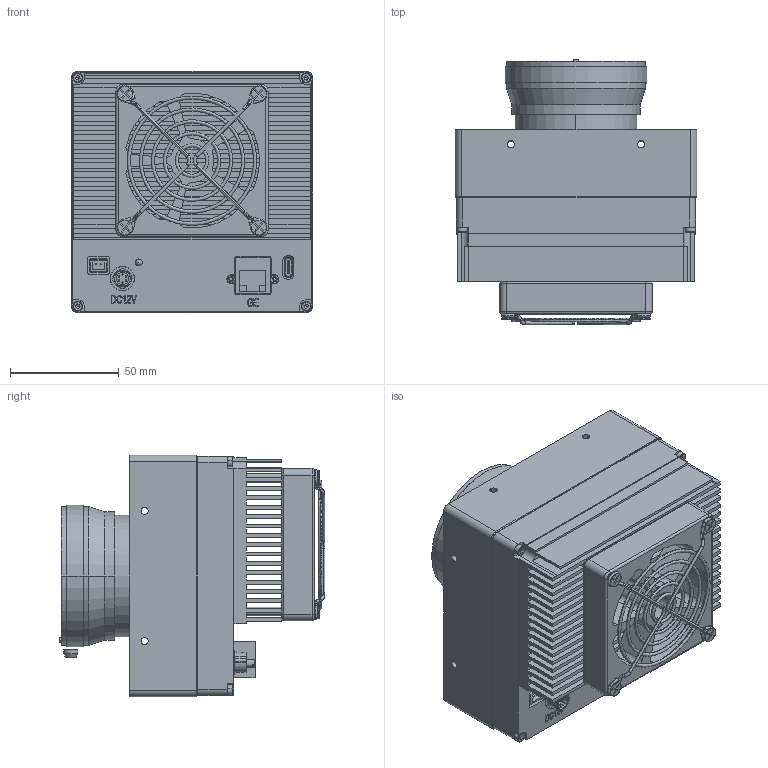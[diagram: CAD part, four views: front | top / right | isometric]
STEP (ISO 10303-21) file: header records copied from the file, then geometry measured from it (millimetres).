
FILE_DESCRIPTION (( 'STEP AP203' ), '1' );
FILE_NAME ('TS46MGV-5M-A02-V1.0.0.STEP', '2022-04-29T08:15:58', ( '微软用户' ), ( '微软中国' ), 'SwSTEP 2.0', 'SolidWorks 2017', '' );
FILE_SCHEMA (( 'CONFIG_CONTROL_DESIGN' ));
Length unit declared in the file: millimetre
Products named in the file (1): TS46MGV-5M-A02-V1.0.0
Bounding box: 111 x 122.2 x 111 mm (x, y, z)
Surface area: 145380.9 mm2 (no closed solid volume)
Topology: 0 solids, 59 shells, 766 faces, 2642 edges, 1901 vertices
Faces by surface type: plane 372, cylinder 261, bspline 66, cone 45, torus 16, sphere 6
Entity records: 31263 total; most frequent: CARTESIAN_POINT 8807, DIRECTION 4677, ORIENTED_EDGE 4203, EDGE_CURVE 2621, VERTEX_POINT 1894, LINE 1621, VECTOR 1621, AXIS2_PLACEMENT_3D 1528
